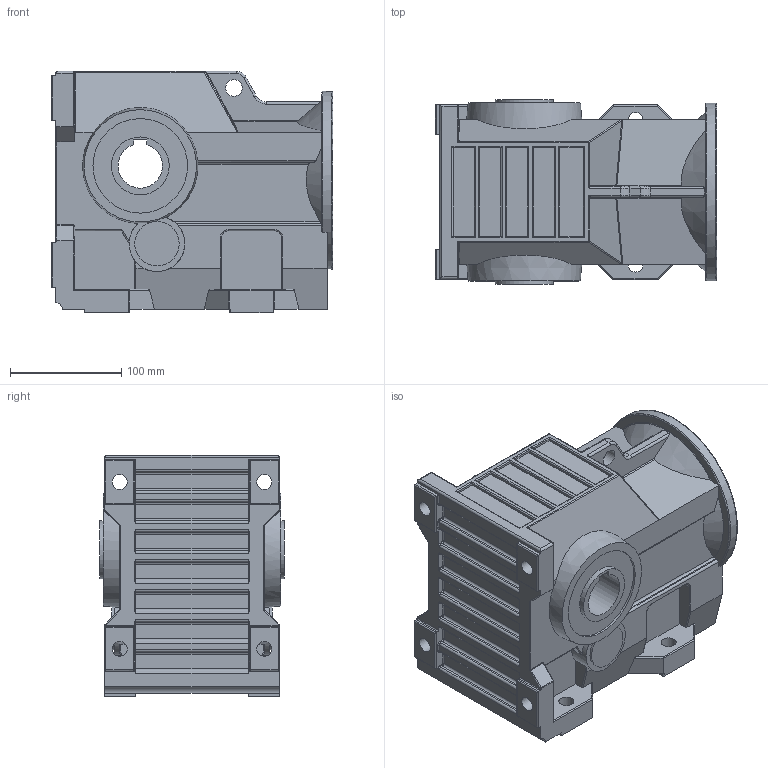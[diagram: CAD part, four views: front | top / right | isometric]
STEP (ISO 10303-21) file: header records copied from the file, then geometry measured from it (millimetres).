
FILE_DESCRIPTION((''),'2;1');
FILE_NAME('F:\PAWEŁ\ZLECENIA\2011 DualSystem\Przekładnie DK\001 Modele\DKAB50_\DK_50_STEP\DK_B_50.stp','2012-06-26T16:05:18',('admin'),(''),'Autodesk Inventor 2009','Autodesk Inventor 2009','');
FILE_SCHEMA(('AUTOMOTIVE_DESIGN { 1 0 10303 214 1 1 1 1 }'));
Length unit declared in the file: millimetre
Products named in the file (1): DK_B_50
Bounding box: 253 x 166 x 217 mm (x, y, z)
Volume: 5952696.3 mm3; surface area: 300691.8 mm2
Topology: 1 solids, 1 shells, 527 faces, 1300 edges, 779 vertices
Faces by surface type: cylinder 230, plane 153, bspline 113, torus 16, sphere 11, cone 4
Full cylindrical faces by diameter (mm): 13.5 x4, 15 x1, 40 x1, 52 x1, 85.002 x1, 120 x1, 160 x1
Entity records: 19315 total; most frequent: CARTESIAN_POINT 7159, DIRECTION 2525, ORIENTED_EDGE 2522, EDGE_CURVE 1261, AXIS2_PLACEMENT_3D 925, VERTEX_POINT 773, VECTOR 675, LINE 675
